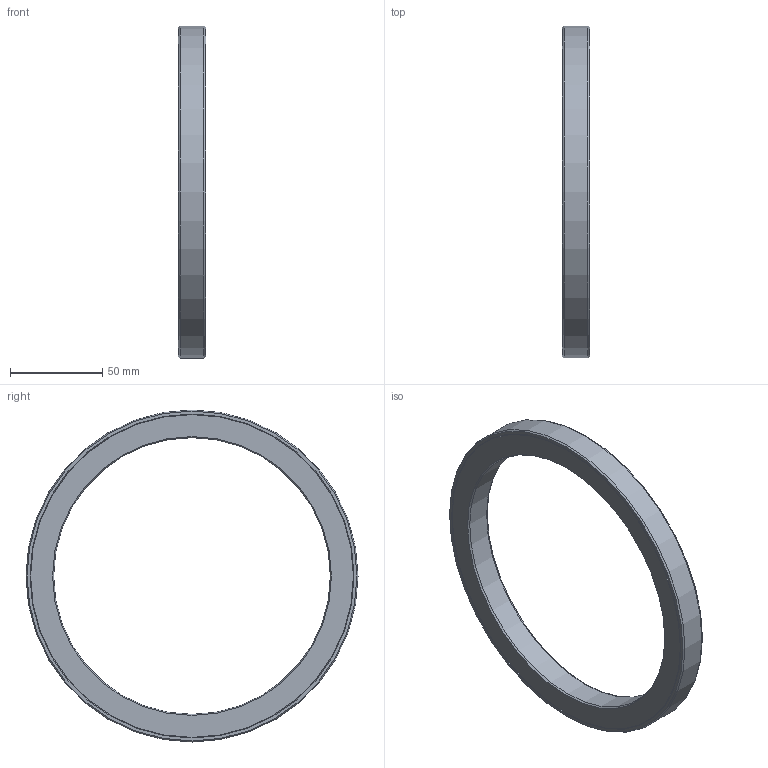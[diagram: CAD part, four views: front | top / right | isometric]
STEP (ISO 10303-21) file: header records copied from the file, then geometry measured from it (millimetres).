
FILE_DESCRIPTION(/* description */ (''),/* implementation_level */ '2;1');
FILE_NAME(/* name */ '301304 L 150x180x15.stp',/* time_stamp */ '2016-12-15T10:26:28+01:00',/* author */ (''),/* organization */ (''),/* preprocessor_version */ 'ST-DEVELOPER v15',/* originating_system */ 'SIEMENS PLM Software NX 8.5',/* authorisation */ '');
FILE_SCHEMA (('CONFIG_CONTROL_DESIGN'));
Length unit declared in the file: millimetre
Products named in the file (1): ATE0000122_01
Bounding box: 15 x 180 x 180 mm (x, y, z)
Volume: 113423.4 mm3; surface area: 47271.6 mm2
Topology: 2 solids, 2 shells, 18 faces, 34 edges, 20 vertices
Faces by surface type: cone 12, plane 4, cylinder 2
Full cylindrical faces by diameter (mm): 150 x1, 180 x1
Entity records: 454 total; most frequent: DIRECTION 74, CARTESIAN_POINT 55, AXIS2_PLACEMENT_3D 37, FACE_BOUND 36, EDGE_LOOP 36, ORIENTED_EDGE 36, ADVANCED_FACE 18, VERTEX_POINT 18
